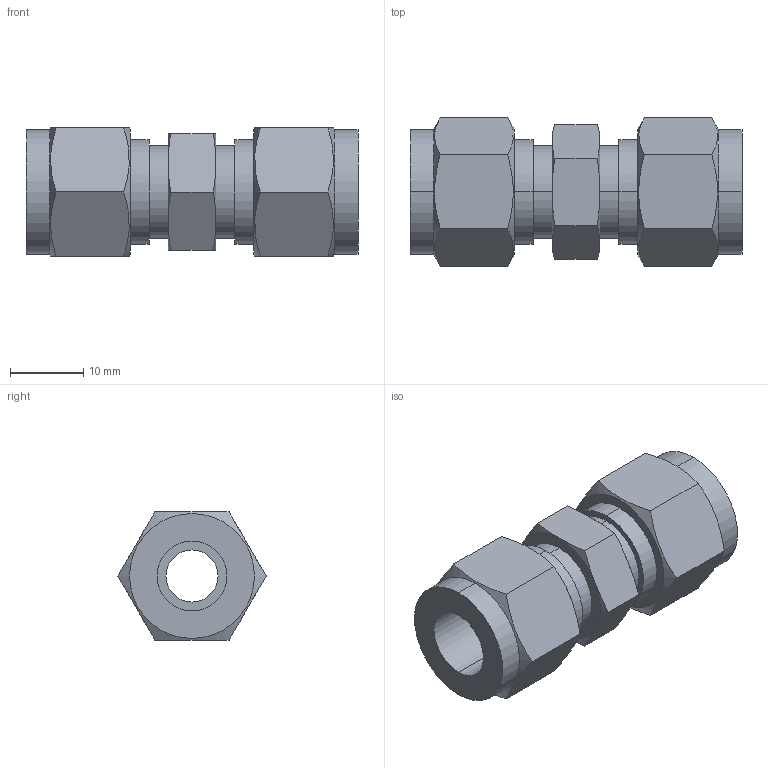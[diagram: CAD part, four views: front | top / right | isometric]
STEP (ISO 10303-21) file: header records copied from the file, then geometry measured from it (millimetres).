
FILE_DESCRIPTION (( 'STEP AP203' ), '1' );
FILE_NAME ('DUA06 SS.STEP', '2009-09-08T10:21:55', ( ' ' ), ( '' ), 'SwSTEP 2.0', 'SolidWorks 2008', '' );
FILE_SCHEMA (( 'CONFIG_CONTROL_DESIGN' ));
Length unit declared in the file: millimetre
Products named in the file (1): DUA06 SS
Bounding box: 45.2 x 20.16 x 17.46 mm (x, y, z)
Volume: 7231 mm3; surface area: 4563.2 mm2
Topology: 1 solids, 1 shells, 66 faces, 152 edges, 96 vertices
Faces by surface type: plane 28, cone 20, cylinder 18
Entity records: 2181 total; most frequent: CARTESIAN_POINT 667, ORIENTED_EDGE 304, DIRECTION 282, EDGE_CURVE 152, AXIS2_PLACEMENT_3D 119, VERTEX_POINT 96, EDGE_LOOP 76, ADVANCED_FACE 66
